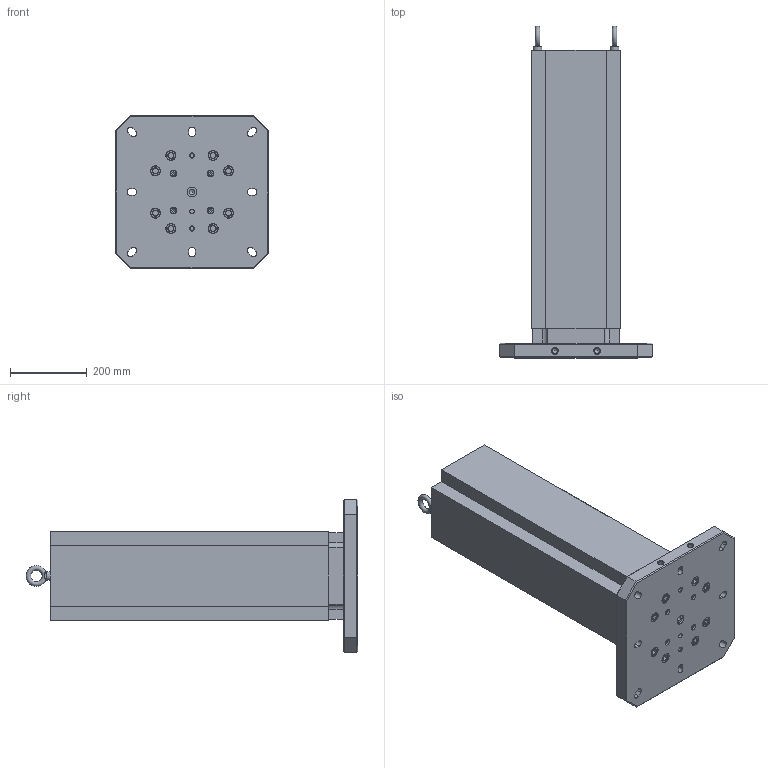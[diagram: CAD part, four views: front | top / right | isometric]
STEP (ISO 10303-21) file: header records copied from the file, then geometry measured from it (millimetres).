
FILE_DESCRIPTION (( 'STEP AP214' ), '1' );
FILE_NAME ('MTA-4004U-800_WEBSITE.step', '2025-08-11T12:49:12', ( '' ), ( '' ), 'SwSTEP 2.0', 'SolidWorks 2024', '' );
FILE_SCHEMA (( 'AUTOMOTIVE_DESIGN' ));
Length unit declared in the file: millimetre
Products named in the file (7): MTA-4004U-800_WEBSITE; RL96-14TC_WEBSITE; RL96-4004BUA_WEBSITE; M12X24MM.EB (McM 3040T15)_WEBSITE_3040T15; HW.76172_WEBSITE; HW.76452_dev_WEBSITE_91290A835; MT-4762A_WEBSITE_MT-4600A
Assembly tree (17 placements, depth 2):
  MTA-4004U-800_WEBSITE
    RL96-4004BUA_WEBSITE
    MT-4762A_WEBSITE_MT-4600A
    M12X24MM.EB (McM 3040T15)_WEBSITE_3040T15  x2
    HW.76452_dev_WEBSITE_91290A835  x8
    RL96-14TC_WEBSITE
    HW.76172_WEBSITE  x4
Bounding box: 400 x 862.88 x 400 mm (x, y, z)
Volume: 30763736 mm3; surface area: 1689403.4 mm2
Topology: 17 solids, 17 shells, 585 faces, 1278 edges, 787 vertices
Faces by surface type: plane 314, cylinder 158, cone 111, torus 2
Full cylindrical faces by diameter (mm): 5 x4, 6 x4, 6.6 x4, 8.5 x4, 10 x4, 10.025 x4, 10.2 x4, 11 x4, 12 x3, 14 x12, 16 x8, 16.02 x4, 17.5 x16, 23 x2, 24 x8, 25.025 x1, 26 x8
Entity records: 11576 total; most frequent: CARTESIAN_POINT 1987, DIRECTION 1878, ORIENTED_EDGE 1574, EDGE_CURVE 787, AXIS2_PLACEMENT_3D 702, EDGE_LOOP 588, VERTEX_POINT 561, VECTOR 474
